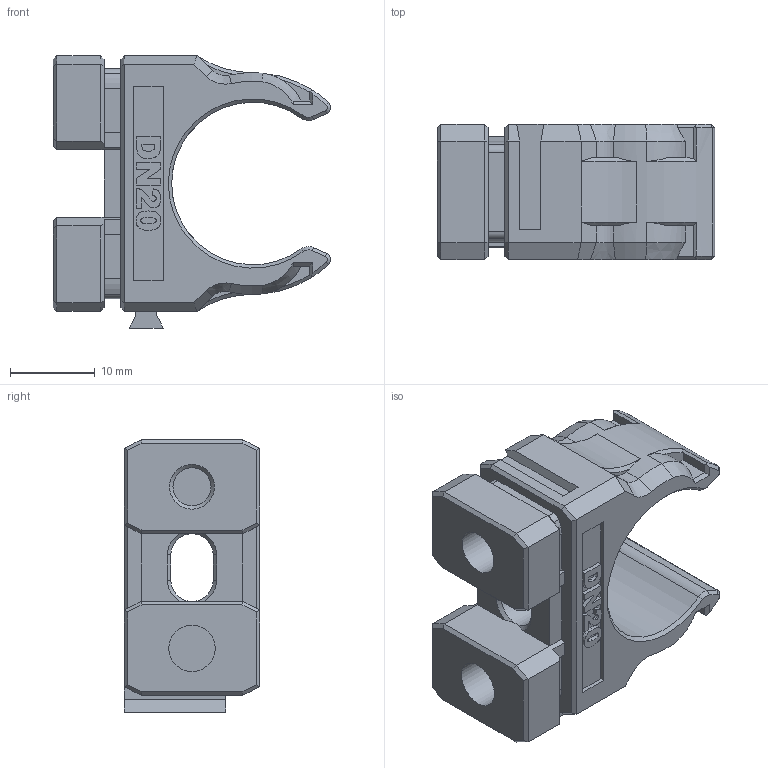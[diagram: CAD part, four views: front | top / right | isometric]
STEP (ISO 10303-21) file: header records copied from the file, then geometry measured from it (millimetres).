
FILE_DESCRIPTION(/* description */ ('STEP AP242 Edition 2','CAx-IF Rec.Pracs.---Representation and Presentation of Product Manufacturing Information (PMI)---4.0---2014-10-13','CAx-IF Rec.Pracs.---3D Tessellated Geometry---0.4---2014-09-14','2;1','CAx-IF Rec.Pracs.---User Defined Attributes---1.5---2016-08-15'),/* implementation_level */ '2;1');
FILE_NAME(/* name */ 'Final Build - Clip fixture (4)',/* time_stamp */ '2026-08-31T23:26:08Z',/* author */ (''),/* organization */ (''),/* preprocessor_version */ 'ST-DEVELOPER v20',/* originating_system */ 'ONSHAPE BY PTC INC, 1.220',/* authorisation */ ' ');
FILE_SCHEMA (('AP242_MANAGED_MODEL_BASED_3D_ENGINEERING_MIM_LF { 1 0 10303 442 3 1 4 }'));
Length unit declared in the file: metre
Products named in the file (1): Clip fixture
Bounding box: 32.8 x 16 x 32.2 mm (x, y, z)
Volume: 7216.8 mm3; surface area: 4630 mm2
Topology: 1 solids, 1 shells, 409 faces, 1068 edges, 678 vertices
Faces by surface type: plane 216, bspline 100, cylinder 46, cone 45, torus 2
Full cylindrical faces by diameter (mm): 4.5 x1, 5.3 x1, 5.5 x1
Entity records: 13436 total; most frequent: CARTESIAN_POINT 4070, ORIENTED_EDGE 2128, DIRECTION 1608, EDGE_CURVE 1064, VERTEX_POINT 678, LINE 648, VECTOR 648, AXIS2_PLACEMENT_3D 480
